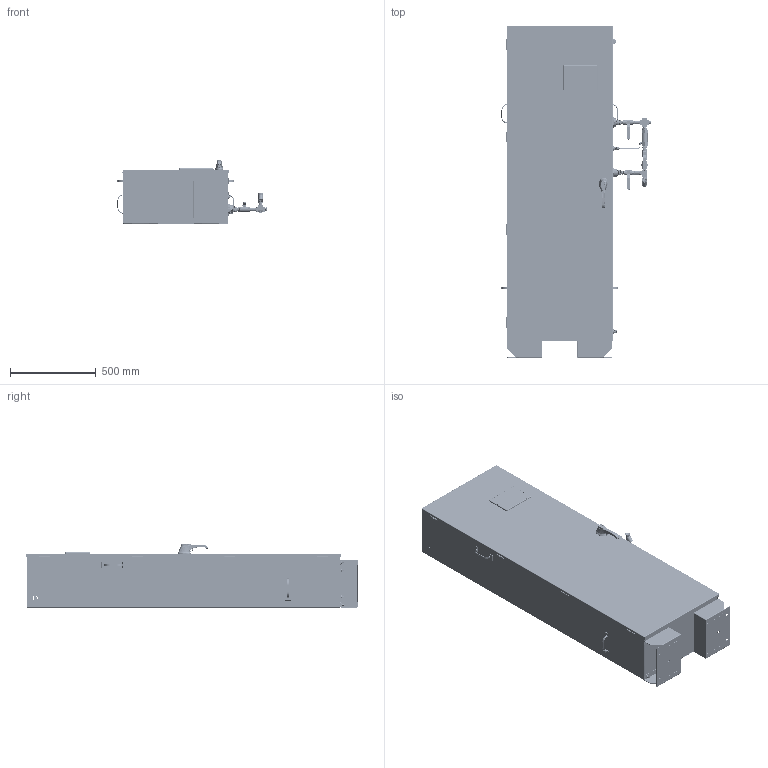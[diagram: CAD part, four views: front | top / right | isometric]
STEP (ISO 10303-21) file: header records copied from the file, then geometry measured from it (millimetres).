
FILE_DESCRIPTION(/* description */ (''),/* implementation_level */ '2;1');
FILE_NAME(/* name */ 'C:\Vault Local\Designs\CAD\Manufacturing\ECS Products\PGEN Nitrogen Generators\PGEN-50\Export\AG-18500.stp',/* time_stamp */ '2021-08-06T09:52:00-05:00',/* author */ ('atroll'),/* organization */ (''),/* preprocessor_version */ 'ST-DEVELOPER v18.1',/* originating_system */ 'Autodesk Inventor 2020',/* authorisation */ '');
FILE_SCHEMA (('AUTOMOTIVE_DESIGN { 1 0 10303 214 3 1 1 }'));
Products named in the file (1): AG-18500_Shrinkwrap_1
Bounding box: 869.43 x 1935.44 x 367.6 mm (x, y, z)
Volume: 8842299.2 mm3; surface area: 8821735.8 mm2
Topology: 6 solids, 53 shells, 6178 faces, 19683 edges, 13426 vertices
Faces by surface type: plane 2574, cylinder 1417, cone 1239, bspline 666, torus 189, sphere 93
Full cylindrical faces by diameter (mm): 0.5 x8, 1 x20, 1.905 x2, 2 x2, 2.286 x8, 2.8 x4, 3 x3, 3.175 x5, 3.3 x1, 3.5 x5, 3.7 x1, 3.8 x2, 3.969 x3, 4.1 x3, 5 x1, 5.156 x4, 6.35 x8, 6.6 x2, 6.607 x1, 6.909 x2, 6.945 x1, 7.057 x28, 7.2 x2, 7.233 x1, 7.772 x1, 7.785 x25, 7.836 x6, 7.938 x2, 7.952 x1, 8 x2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
Entity records: 503862 total; most frequent: CARTESIAN_POINT 332673, ORIENTED_EDGE 36401, DIRECTION 31181, EDGE_CURVE 19636, VERTEX_POINT 13426, AXIS2_PLACEMENT_3D 10768, LINE 9645, VECTOR 9645
